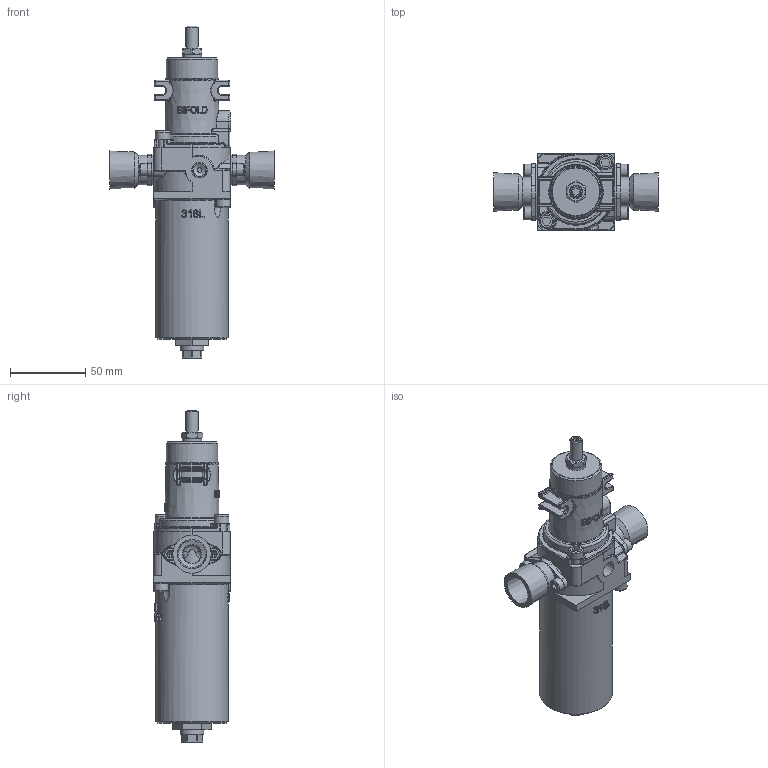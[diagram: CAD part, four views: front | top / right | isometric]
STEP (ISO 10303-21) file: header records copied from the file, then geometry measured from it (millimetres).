
FILE_DESCRIPTION(/* description */ ('Unknown'),/* implementation_level */ '2;1');
FILE_NAME(/* name */ 'SH12-FR-SR-AD-X-X',/* time_stamp */ '2022-01-31T08:47:57+00:00',/* author */ ('Unknown'),/* organization */ ('Unknown'),/* preprocessor_version */ 'ST-DEVELOPER v16.7',/* originating_system */ 'Solid Edge',/* authorisation */ 'Unknown');
FILE_SCHEMA (('AUTOMOTIVE_DESIGN {1 0 10303 214 3 1 1}'));
Products named in the file (2): sh12-fr-sr-ad-x-x; sh12-fr-ad
Assembly tree (1 placements, depth 2):
  sh12-fr-sr-ad-x-x
    sh12-fr-ad
Bounding box: 109.3 x 50.8 x 220 mm (x, y, z)
Volume: 203001.4 mm3; surface area: 89313.6 mm2
Topology: 2 solids, 16 shells, 1443 faces, 3450 edges, 2057 vertices
Faces by surface type: plane 426, cylinder 378, bspline 308, torus 140, cone 121, sphere 70
Full cylindrical faces by diameter (mm): 1.7 x1, 2.8 x1, 3.18 x2, 3.9 x1, 4 x4, 4.02 x4, 4.2 x4, 4.75 x1, 5 x12, 5.5 x8, 6 x4, 6.5 x2, 7.75 x1, 8 x3, 8.433 x2, 8.5 x4, 8.7 x1, 9.8 x4, 10 x1, 12.12 x2, 12.3 x3, 12.7 x2, 13 x1, 15.875 x1, 16 x2, 17.2 x2, 17.5 x2, 18 x1, 18.001 x2, 19 x1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
Entity records: 58838 total; most frequent: CARTESIAN_POINT 19161, ORIENTED_EDGE 6128, DIRECTION 5824, EDGE_CURVE 3064, AXIS2_PLACEMENT_3D 2382, VERTEX_POINT 1977, FACE_BOUND 1793, EDGE_LOOP 1783
